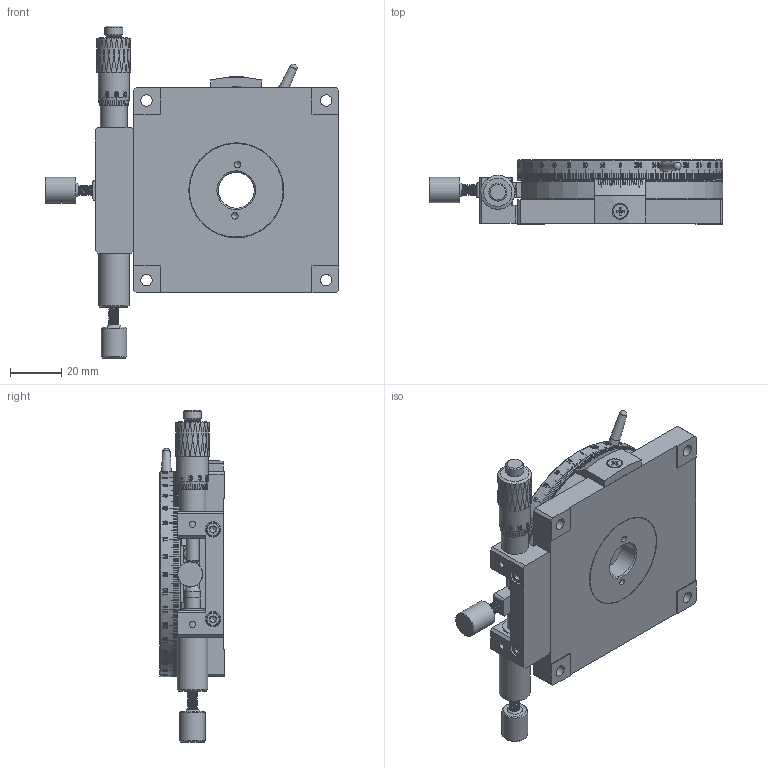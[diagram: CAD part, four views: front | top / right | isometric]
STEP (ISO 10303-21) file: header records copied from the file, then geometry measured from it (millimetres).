
FILE_DESCRIPTION (( 'STEP AP203' ), '1' );
FILE_NAME ('BPR80.STEP', '2024-07-09T12:11:07', ( 'Windows User' ), ( 'P R C' ), 'SwSTEP 2.0', 'SolidWorks 2024', '' );
FILE_SCHEMA (( 'CONFIG_CONTROL_DESIGN' ));
Products named in the file (1): BPR80
Bounding box: 114.5 x 25 x 129.36 mm (x, y, z)
Volume: 133169.4 mm3; surface area: 61371.7 mm2
Topology: 20 solids, 20 shells, 2788 faces, 8811 edges, 6347 vertices
Faces by surface type: plane 1821, bspline 402, cylinder 379, cone 166, torus 16, sphere 4
Full cylindrical faces by diameter (mm): 2.05 x2, 2.5 x19, 2.6 x1, 2.8 x1, 2.85 x1, 2.9 x2, 3 x3, 3.2 x2, 3.3 x10, 3.4 x2, 4 x2, 4.5 x4, 5 x5, 5.3 x1, 5.5 x3, 6 x4, 7 x1, 8 x4, 8.5 x1, 8.8 x1, 9.5 x5, 10 x2, 10.5 x1, 12 x1, 12.2 x1, 14 x1, 14.1 x1, 15 x7, 16 x2, 23 x1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
Entity records: 160424 total; most frequent: CARTESIAN_POINT 88285, ORIENTED_EDGE 17100, DIRECTION 11549, EDGE_CURVE 8550, VERTEX_POINT 6286, LINE 4249, VECTOR 4249, AXIS2_PLACEMENT_3D 3650
